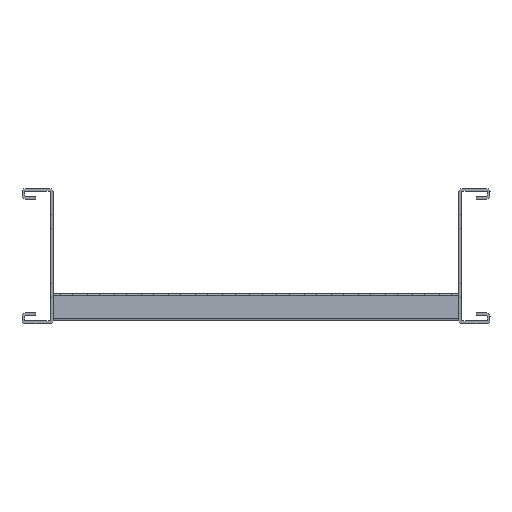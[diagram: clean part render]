
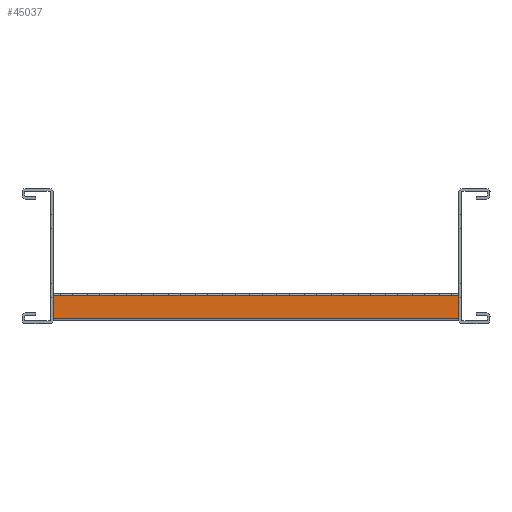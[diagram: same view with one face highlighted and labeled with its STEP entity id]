
A CAD part, left-side view. The second image highlights one B-rep face of the part: STEP entity #45037.
In plain terms, the highlighted planar face has unit normal (-1, 0, 0) as drawn and (0, 1, 0) by its records, which use the part's own axes.
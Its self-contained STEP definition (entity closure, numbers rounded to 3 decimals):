
#3163=FACE_OUTER_BOUND('',#6211,.T.);
#6211=EDGE_LOOP('',(#40784,#40785,#40786,#40787));
#12281=LINE('',#69546,#18321);
#12287=LINE('',#69563,#18327);
#12368=LINE('',#69848,#18408);
#12369=LINE('',#69850,#18409);
#18321=VECTOR('',#57236,304.8);
#18327=VECTOR('',#57248,304.8);
#18408=VECTOR('',#57477,304.8);
#18409=VECTOR('',#57480,304.8);
#22436=VERTEX_POINT('',#69543);
#22437=VERTEX_POINT('',#69545);
#22444=VERTEX_POINT('',#69560);
#22445=VERTEX_POINT('',#69562);
#28516=EDGE_CURVE('',#22436,#22437,#12281,.T.);
#28524=EDGE_CURVE('',#22444,#22445,#12287,.T.);
#28668=EDGE_CURVE('',#22445,#22436,#12368,.T.);
#28669=EDGE_CURVE('',#22444,#22437,#12369,.T.);
#40784=ORIENTED_EDGE('',*,*,#28516,.F.);
#40785=ORIENTED_EDGE('',*,*,#28668,.F.);
#40786=ORIENTED_EDGE('',*,*,#28524,.F.);
#40787=ORIENTED_EDGE('',*,*,#28669,.T.);
#43010=PLANE('',#47218);
#45037=ADVANCED_FACE('',(#3163),#43010,.T.);
#47218=AXIS2_PLACEMENT_3D('',#69849,#57478,#57479);
#57236=DIRECTION('',(0.,0.,-1.));
#57248=DIRECTION('',(0.,0.,1.));
#57477=DIRECTION('',(-1.,0.,0.));
#57478=DIRECTION('center_axis',(0.,1.,0.));
#57479=DIRECTION('ref_axis',(1.,0.,0.));
#57480=DIRECTION('',(-1.,0.,0.));
#69543=CARTESIAN_POINT('',(0.,20.,8.5));
#69545=CARTESIAN_POINT('',(0.,20.,-8.5));
#69546=CARTESIAN_POINT('',(0.,20.,8.5));
#69560=CARTESIAN_POINT('',(300.,20.,-8.5));
#69562=CARTESIAN_POINT('',(300.,20.,8.5));
#69563=CARTESIAN_POINT('',(300.,20.,-8.5));
#69848=CARTESIAN_POINT('',(0.,20.,8.5));
#69849=CARTESIAN_POINT('Origin',(0.,20.,8.5));
#69850=CARTESIAN_POINT('',(0.,20.,-8.5));
